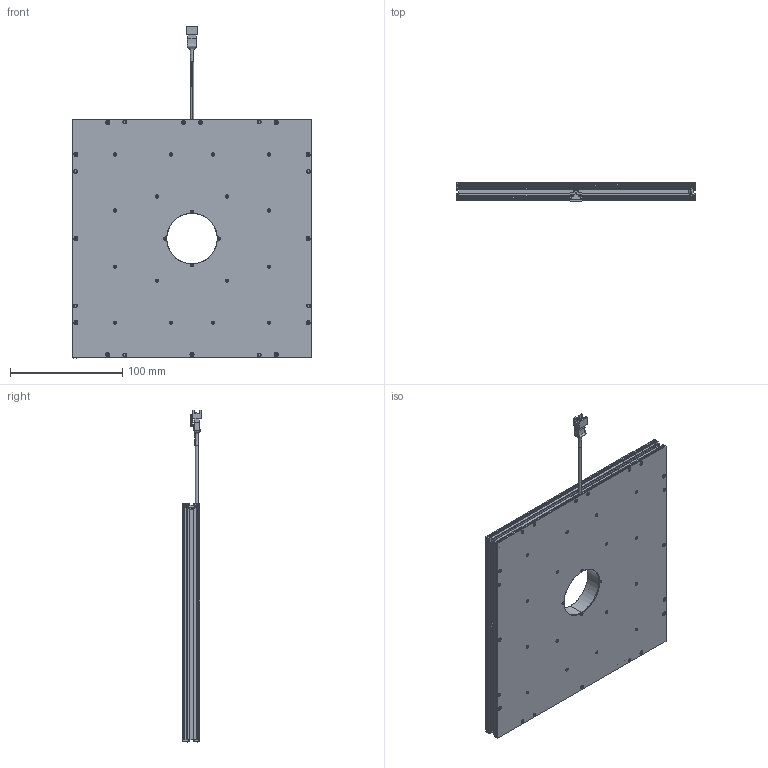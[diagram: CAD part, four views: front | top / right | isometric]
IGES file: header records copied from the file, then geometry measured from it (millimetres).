
Start section: SolidWorks IGES file using analytic representation for surfaces
Global section: file name: C:\Users\user\Downloads\TEMP_STEP\VDFHP-200200_Drawing_L1200A-A00100.IGS; native system: SolidWorks 2018; preprocessor: SolidWorks 2018; author: user; date: 231221.091438; units: millimetre
Bounding box: 213 x 16.55 x 296.06 mm (x, y, z)
Surface area: 175191.1 mm2 (no closed solid volume)
Topology: 0 solids, 0 shells, 713 faces, 8946 edges, 8946 vertices
Faces by surface type: bspline 439, revolution 274
